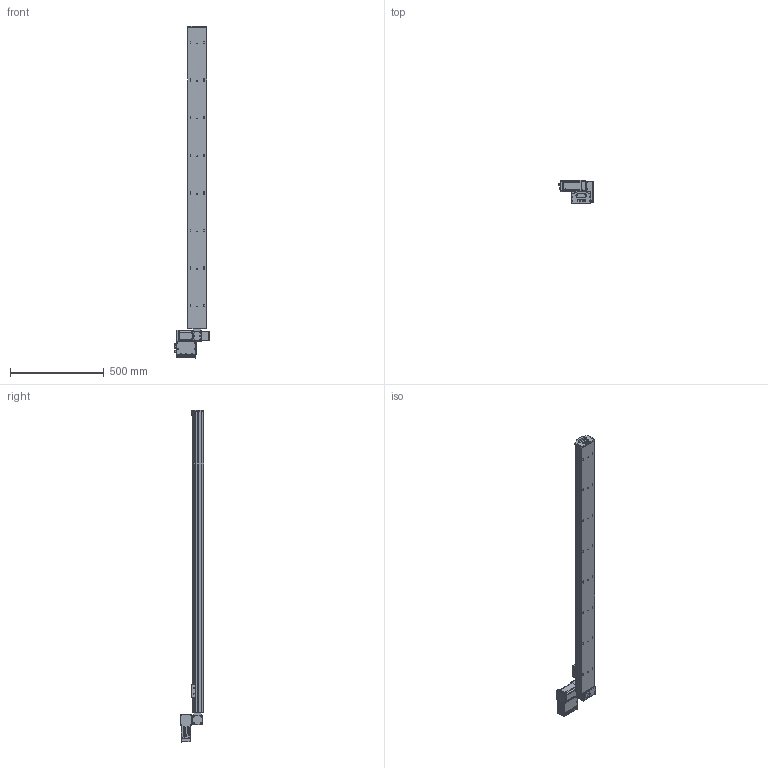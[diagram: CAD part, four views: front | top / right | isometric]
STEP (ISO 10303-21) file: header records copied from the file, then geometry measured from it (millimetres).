
FILE_DESCRIPTION (( 'STEP AP203' ), '1' );
FILE_NAME ('S10 TBN LT S1600.STEP', '2012-06-19T09:51:04', ( 'Conseil Régional Haute-Normandie' ), ( 'Conseil Régional Haute-Normandie' ), 'SwSTEP 2.0', 'SolidWorks 2010', '' );
FILE_SCHEMA (( 'CONFIG_CONTROL_DESIGN' ));
Length unit declared in the file: millimetre
Products named in the file (29): BU45 Carte d''axe A11_5; Moteur 60BLDC90A_3; Sub D 9cts 90_X2_00B_X0__3; Colonnette ronde_3; Radiateur profil_X2_00E9_X0_ 100x25_3; cache t皻e_Default; Cvis M5 L30_Default; renvoi LH_Default; vis M5 L12_Default; Vis M5 L16-2_Default_1; S10 TBN LT S1600; Assem1_7; T_X2_00F4_X0_le contre le moteur_5; BU41 Carte Alimentation P05_3; Colonnette_3; Couvercle_3; T_X2_00F4_X0_le fond_3; Connecteur rond D10 3cts_5; Connecteur rond D12 4cts_5; T_X2_00F4_X0_le Arri_X2_00E8_X0_re_5; T_X2_00F4_X0_le lat_X2_00E9_X0_rale_5; Vis TF 3 torkx_1_1; cache t皻e axe_Default; embout; palette tbn; plaque de bout s10_Default; Plaque racord_Default; vis M5 L5_Default; axe 1600
Assembly tree (62 placements, depth 3):
  S10 TBN LT S1600
    plaque de bout s10_Default
    vis M5 L5_Default  x4
    embout
    vis M5 L12_Default  x4
    Cvis M5 L30_Default  x2
    axe 1600
    cache t皻e_Default  x2
    Vis M5 L16-2_Default_1  x4
    Assem1_7
      T_X2_00F4_X0_le Arri_X2_00E8_X0_re_5
      Vis TF 3 torkx_1_1  x21
      Colonnette ronde_3
      T_X2_00F4_X0_le lat_X2_00E9_X0_rale_5  x2
      Connecteur rond D10 3cts_5  x2
      BU45 Carte d''axe A11_5
      BU41 Carte Alimentation P05_3
      Couvercle_3
      Radiateur profil_X2_00E9_X0_ 100x25_3
      Moteur 60BLDC90A_3
      Colonnette_3  x2
      Connecteur rond D12 4cts_5
      T_X2_00F4_X0_le contre le moteur_5
      Sub D 9cts 90_X2_00B_X0__3
      T_X2_00F4_X0_le fond_3
    cache t皻e axe_Default
    Plaque racord_Default
    palette tbn
    renvoi LH_Default
Bounding box: 189.8 x 127 x 1766.5 mm (x, y, z)
Volume: 9121480.5 mm3; surface area: 1069186.4 mm2
Topology: 61 solids, 61 shells, 2299 faces, 5703 edges, 3682 vertices
Faces by surface type: plane 1096, cylinder 986, cone 174, bspline 40, torus 3
Entity records: 47756 total; most frequent: CARTESIAN_POINT 8622, DIRECTION 7702, ORIENTED_EDGE 7002, EDGE_CURVE 3501, AXIS2_PLACEMENT_3D 2861, VERTEX_POINT 2286, LINE 1980, VECTOR 1980
